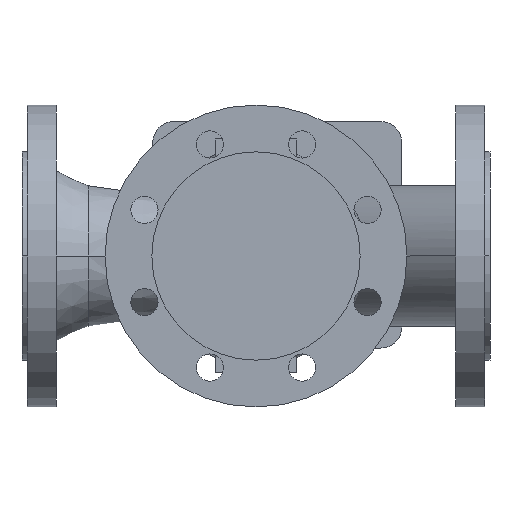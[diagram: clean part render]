
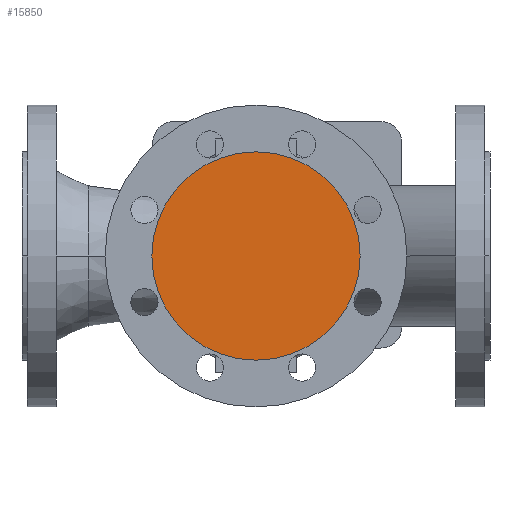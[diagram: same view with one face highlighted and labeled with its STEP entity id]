
A CAD part, front view. The second image highlights one B-rep face of the part: STEP entity #15850.
In plain terms, the highlighted planar face has unit normal (0, -1, 0).
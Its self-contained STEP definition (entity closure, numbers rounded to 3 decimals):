
#4890=CARTESIAN_POINT('',(86.,-130.,0.));
#4900=VERTEX_POINT('',#4890);
#4930=CARTESIAN_POINT('',(155.,-130.,0.));
#4940=DIRECTION('',(0.,1.,0.));
#4950=DIRECTION('',(1.,0.,0.));
#4960=AXIS2_PLACEMENT_3D('',#4930,#4940,#4950);
#4970=CIRCLE('',#4960,69.);
#4980=CARTESIAN_POINT('',(224.,-130.,0.));
#4990=VERTEX_POINT('',#4980);
#5000=EDGE_CURVE('',#4990,#4900,#4970,.T.);
#15750=CARTESIAN_POINT('',(189.5,-130.,0.));
#15760=DIRECTION('',(0.,-1.,0.));
#15770=DIRECTION('',(-1.,0.,0.));
#15780=AXIS2_PLACEMENT_3D('',#15750,#15760,#15770);
#15790=PLANE('',#15780);
#15800=EDGE_CURVE('',#4900,#4990,#4970,.T.);
#15810=ORIENTED_EDGE('',*,*,#15800,.F.);
#15820=ORIENTED_EDGE('',*,*,#5000,.F.);
#15830=EDGE_LOOP('',(#15820,#15810));
#15840=FACE_OUTER_BOUND('',#15830,.T.);
#15850=ADVANCED_FACE('',(#15840),#15790,.T.);
